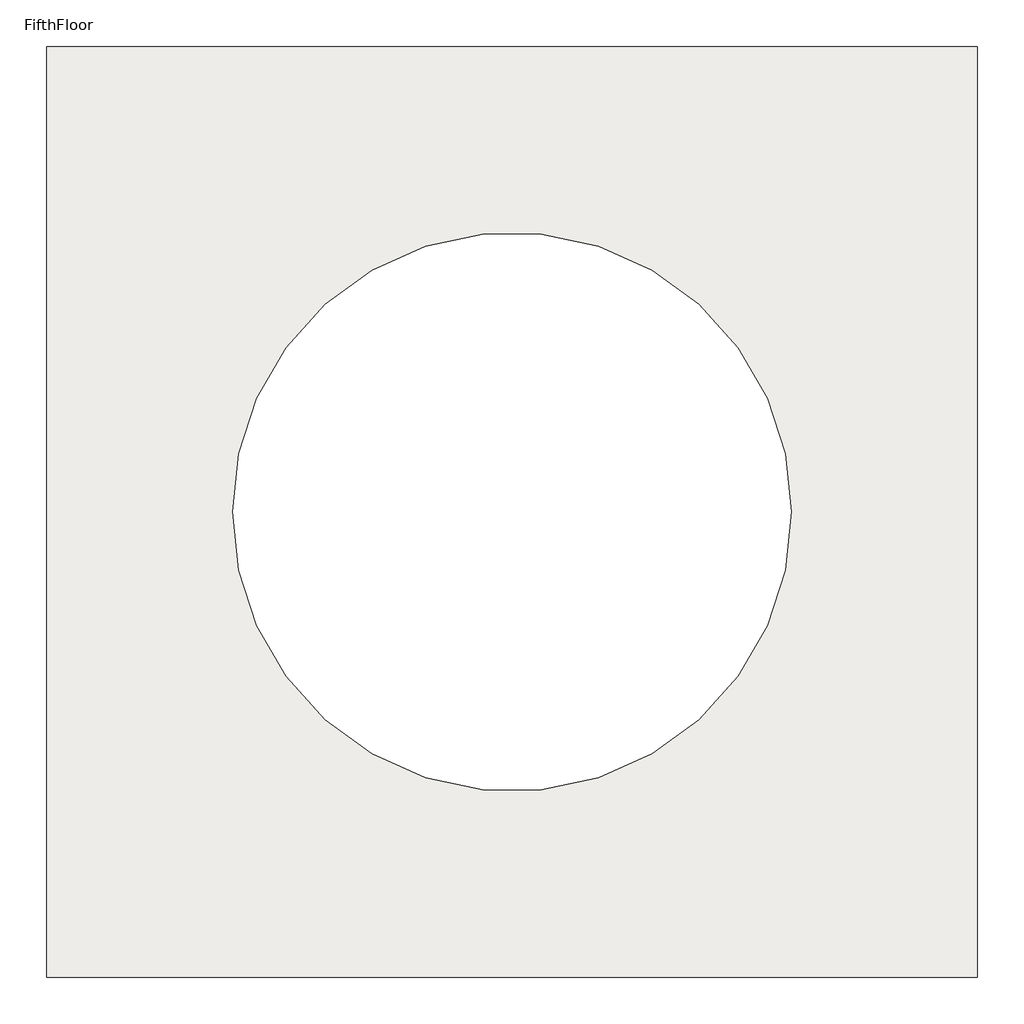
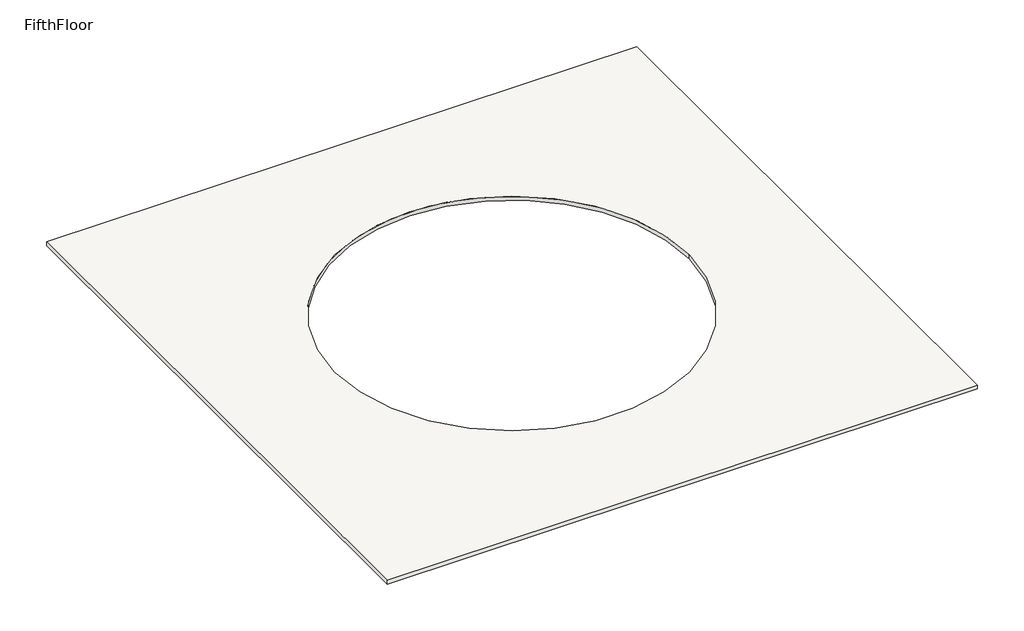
# One storey: 1 slab.
"""IFC4 building model written with IfcOpenShell, lengths in millimetres."""

from ifc_helpers import new_model, si_unit, point, frame, frame_2d, origin, place, context, project, spatial, polyline, circle_curve, trimmed, segment, composite_curve, outline, extrude, element, save

model = new_model("IFC4")

# Units and contexts
model_context = context("Model", 3, world=origin())
ifc_project = project(units=[si_unit("LENGTHUNIT", "METRE", prefix="MILLI")], contexts=[model_context])

# Site, building, storey
site = spatial("IfcSite", under=ifc_project)
building = spatial("IfcBuilding", under=site)
storey = spatial("IfcBuildingStorey", under=building, Name="FifthFloor", Elevation=12192.0)

# Slab
placement = place(None, origin())
element("IfcSlab", 1, ObjectType="LW Concrete on Metal Deck", at=placement, inside=storey, context=model_context, shape_type="SweptSolid", body=[
    extrude(outline(polyline([(7865.314252, 7577.3780505), (7865.314252, -7662.6219495), (-7374.685748, -7662.6219495), (-7374.685748, 7577.3780505), (7865.314252, 7577.3780505)]), holes=[composite_curve([segment(trimmed(circle_curve(frame_2d((245.314252, -42.6219495)), 4572.0), [point((4817.314252, -42.6219495))], [point((-4326.685748, -42.6219495))], True, "CARTESIAN"), True, "CONTINUOUS"), segment(trimmed(circle_curve(frame_2d((245.314252, -42.6219495)), 4572.0), [point((-4326.685748, -42.6219495))], [point((4817.314252, -42.6219495))], True, "CARTESIAN"), True, "CONTINUOUS")], self_intersect=False)]), frame((0.0, 0.0, 12087.225), z_axis=(0.0, 0.0, 1.0), x_axis=(1.0, 0.0, 0.0)), (0.0, 0.0, 1.0), 104.775),
])

save(model, "model.ifc")
